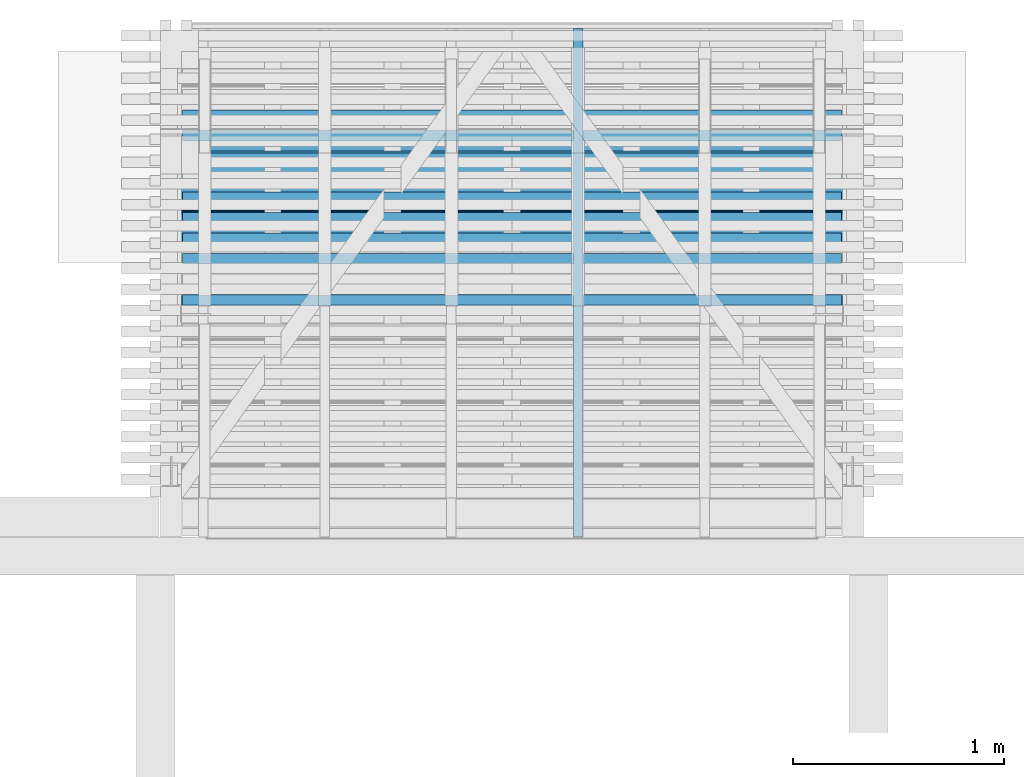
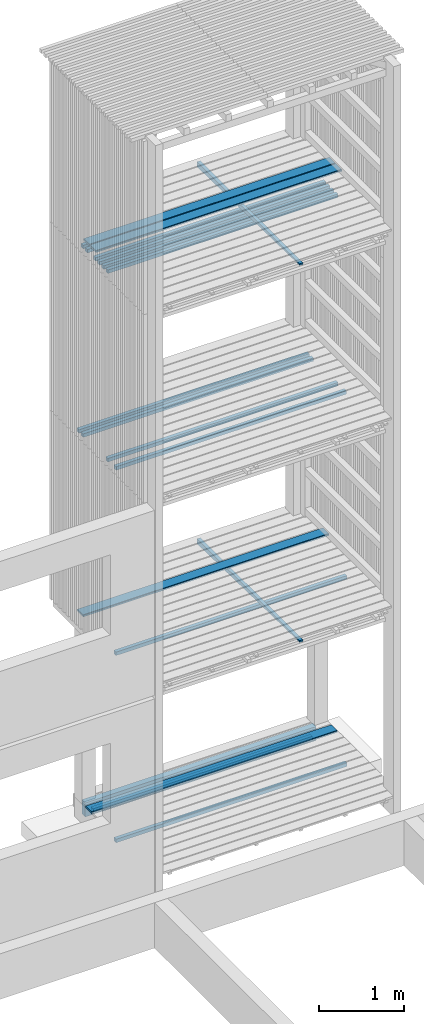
# One storey, part 73 of 182: 20 beams.
"""IFC2X3 building model written with IfcOpenShell, lengths in metres."""

from ifc_helpers import new_model, si_unit, frame, origin, place, context, project, spatial, faceted_brep, element, save


model = new_model("IFC2X3")

# Units and contexts
model_context = context("Model", 3, precision=1e-06, world=origin())
ifc_project = project(units=[si_unit("LENGTHUNIT", "METRE"), si_unit("PLANEANGLEUNIT", "RADIAN")], contexts=[model_context])

# Site, building, storey
site = spatial("IfcSite", under=ifc_project, CompositionType="ELEMENT")
building = spatial("IfcBuilding", under=site, CompositionType="ELEMENT")
storey = spatial("IfcBuildingStorey", under=building, Name="vs", CompositionType="ELEMENT", Elevation=-0.85)

# Beams
placement = place(None, origin())
beam_1_placement = place(placement, frame((26.269999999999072, 11.983411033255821, 7.86739999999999), z_axis=(0.0, 0.0, 1.0), x_axis=(-1.0, 0.0, 0.0)))
element("IfcBeam", 1, at=beam_1_placement, inside=storey, Name="Bardage", context=model_context, shape_type="Brep", body=[
    faceted_brep([(3.120000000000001, 0.025000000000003, -0.024999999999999), (3.120000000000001, 0.025000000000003, 0.025000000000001), (3.120000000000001, -0.025000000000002, 0.025000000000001), (3.120000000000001, -0.025000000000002, -0.024999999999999), (-3e-15, -0.025000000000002, -0.024999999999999), (-3e-15, -0.025000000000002, 0.025000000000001), (-3e-15, 0.024999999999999, 0.025000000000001), (-3e-15, 0.024999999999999, -0.024999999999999), (-3e-15, 0.024999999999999, -0.024999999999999), (-3e-15, 0.024999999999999, 0.025000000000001), (3.120000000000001, 0.025000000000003, 0.025000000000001), (3.120000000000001, 0.025000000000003, -0.024999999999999), (-3e-15, 0.024999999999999, 0.025000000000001), (-3e-15, -0.025000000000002, 0.025000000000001), (3.120000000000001, -0.025000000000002, 0.025000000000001), (3.120000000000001, 0.025000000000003, 0.025000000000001), (-3e-15, -0.025000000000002, 0.025000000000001), (-3e-15, -0.025000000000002, -0.024999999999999), (3.120000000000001, -0.025000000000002, -0.024999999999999), (3.120000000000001, -0.025000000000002, 0.025000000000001), (-3e-15, -0.025000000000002, -0.024999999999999), (-3e-15, 0.024999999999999, -0.024999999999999), (3.120000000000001, 0.025000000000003, -0.024999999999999), (3.120000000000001, -0.025000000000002, -0.024999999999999)], [[[0, 1, 2, 3]], [[4, 5, 6, 7]], [[8, 9, 10, 11]], [[12, 13, 14, 15]], [[16, 17, 18, 19]], [[20, 21, 22, 23]]]),
])
beam_2_placement = place(placement, frame((26.269999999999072, 12.274661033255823, 7.86739999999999), z_axis=(0.0, 0.0, 1.0), x_axis=(-1.0, 0.0, 0.0)))
element("IfcBeam", 2, at=beam_2_placement, inside=storey, Name="Bardage", context=model_context, shape_type="Brep", body=[
    faceted_brep([(3.119999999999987, 0.024999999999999, 0.025000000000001), (3.119999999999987, -0.024999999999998, 0.025000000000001), (3.119999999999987, -0.024999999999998, -0.024999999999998), (3.119999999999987, 0.024999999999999, -0.024999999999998), (-3e-15, -0.025000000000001, 0.025000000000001), (-3e-15, 0.024999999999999, 0.025000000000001), (-3e-15, 0.024999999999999, -0.024999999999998), (-3e-15, -0.025000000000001, -0.024999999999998), (3.119999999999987, 0.024999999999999, -0.024999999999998), (3.119999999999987, -0.024999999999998, -0.024999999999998), (-3e-15, -0.025000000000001, -0.024999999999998), (-3e-15, 0.024999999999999, -0.024999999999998), (-3e-15, -0.025000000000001, -0.024999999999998), (3.119999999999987, -0.024999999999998, -0.024999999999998), (3.119999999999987, -0.024999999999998, 0.025000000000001), (-3e-15, -0.025000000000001, 0.025000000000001), (-3e-15, -0.025000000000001, 0.025000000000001), (3.119999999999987, -0.024999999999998, 0.025000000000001), (3.119999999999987, 0.024999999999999, 0.025000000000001), (-3e-15, 0.024999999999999, 0.025000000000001), (-3e-15, 0.024999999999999, 0.025000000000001), (3.119999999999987, 0.024999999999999, 0.025000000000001), (3.119999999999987, 0.024999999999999, -0.024999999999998), (-3e-15, 0.024999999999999, -0.024999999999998)], [[[0, 1, 2, 3]], [[4, 5, 6, 7]], [[8, 9, 10, 11]], [[12, 13, 14, 15]], [[16, 17, 18, 19]], [[20, 21, 22, 23]]]),
])
beam_3_placement = place(placement, frame((26.374999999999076, 12.234577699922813, 2.733499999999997), z_axis=(0.0, 0.0, 1.0), x_axis=(-1.0, 0.0, 0.0)))
element("IfcBeam", 3, at=beam_3_placement, inside=storey, Name="Caillebotis", context=model_context, shape_type="Brep", body=[
    faceted_brep([(3.329999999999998, -0.072499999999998, -0.0135), (3.329999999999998, 0.072499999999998, -0.0135), (3.329999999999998, 0.072499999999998, 0.0085), (3.329999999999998, 0.067500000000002, 0.0135), (3.329999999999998, -0.067500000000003, 0.0135), (3.329999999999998, -0.072499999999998, 0.008500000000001), (0.0, -0.072500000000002, 0.008500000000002), (0.0, -0.067500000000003, 0.0135), (0.0, 0.067499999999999, 0.0135), (0.0, 0.072499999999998, 0.0085), (0.0, 0.072499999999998, -0.0135), (0.0, -0.072500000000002, -0.0135), (3.329999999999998, 0.072499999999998, 0.0085), (3.329999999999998, 0.072499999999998, -0.0135), (0.0, 0.072499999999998, -0.0135), (0.0, 0.072499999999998, 0.0085), (3.329999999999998, 0.067500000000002, 0.0135), (3.329999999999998, 0.072499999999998, 0.0085), (0.0, 0.072499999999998, 0.0085), (0.0, 0.067499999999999, 0.0135), (3.329999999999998, -0.067500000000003, 0.0135), (3.329999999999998, 0.067500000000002, 0.0135), (0.0, 0.067499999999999, 0.0135), (0.0, -0.067500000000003, 0.0135), (3.329999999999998, -0.072499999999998, 0.008500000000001), (3.329999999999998, -0.067500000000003, 0.0135), (0.0, -0.067500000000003, 0.0135), (0.0, -0.072500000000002, 0.008500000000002), (3.329999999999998, -0.072499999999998, -0.0135), (3.329999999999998, -0.072499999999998, 0.008500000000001), (0.0, -0.072500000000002, 0.008500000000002), (0.0, -0.072500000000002, -0.0135), (0.0, 0.072499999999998, -0.0135), (3.329999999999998, 0.072499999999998, -0.0135), (3.329999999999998, -0.072499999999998, -0.0135), (0.0, -0.072500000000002, -0.0135)], [[[0, 1, 2, 3, 4, 5]], [[6, 7, 8, 9, 10, 11]], [[12, 13, 14, 15]], [[16, 17, 18, 19]], [[20, 21, 22, 23]], [[24, 25, 26, 27]], [[28, 29, 30, 31]], [[32, 33, 34, 35]]]),
])
beam_4_placement = place(placement, frame((25.022999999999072, 10.470077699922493, 2.684400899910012), z_axis=(0.0, 0.0, 1.0), x_axis=(0.0, 1.0, 0.0)))
element("IfcBeam", 4, at=beam_4_placement, inside=storey, Name="Calage", context=model_context, shape_type="Brep", body=[
    faceted_brep([(2.410000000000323, -0.022499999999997, -0.035599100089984), (0.0, -0.022499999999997, 0.012600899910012), (0.0, 0.022500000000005, 0.012600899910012), (2.410000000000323, 0.02249999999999, -0.035599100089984), (0.0, 0.022500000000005, 0.035599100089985), (0.0, 0.022500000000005, 0.012600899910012), (0.0, -0.022499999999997, 0.012600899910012), (0.0, -0.022499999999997, 0.035599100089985), (2.410000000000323, 0.02249999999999, -0.035599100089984), (0.0, 0.022500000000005, 0.012600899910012), (0.0, 0.022500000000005, 0.035599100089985), (2.410000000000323, 0.022500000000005, 0.035599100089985), (2.410000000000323, -0.022499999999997, 0.035599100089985), (0.0, -0.022499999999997, 0.035599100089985), (0.0, -0.022499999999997, 0.012600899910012), (2.410000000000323, -0.022499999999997, -0.035599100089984), (2.410000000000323, 0.022500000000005, 0.035599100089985), (0.0, 0.022500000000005, 0.035599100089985), (0.0, -0.022499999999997, 0.035599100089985), (2.410000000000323, -0.022499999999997, 0.035599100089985), (2.410000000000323, 0.02249999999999, -0.035599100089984), (2.410000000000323, 0.022500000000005, 0.035599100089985), (2.410000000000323, -0.022499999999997, 0.035599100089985), (2.410000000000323, -0.022499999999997, -0.035599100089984)], [[[0, 1, 2, 3]], [[4, 5, 6, 7]], [[8, 9, 10, 11]], [[12, 13, 14, 15]], [[16, 17, 18, 19]], [[20, 21, 22, 23]]]),
])
beam_5_placement = place(placement, frame((26.269999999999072, 12.468827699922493, 5.167399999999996), z_axis=(0.0, 0.0, 1.0), x_axis=(-1.0, 0.0, 0.0)))
element("IfcBeam", 5, at=beam_5_placement, inside=storey, Name="Bardage", context=model_context, shape_type="Brep", body=[
    faceted_brep([(3.120000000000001, 0.025000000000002, -0.025), (3.120000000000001, 0.025000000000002, 0.024999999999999), (3.120000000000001, -0.024999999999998, 0.024999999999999), (3.120000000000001, -0.024999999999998, -0.025), (-3e-15, -0.024999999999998, -0.025), (-3e-15, -0.024999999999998, 0.024999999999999), (-3e-15, 0.025000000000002, 0.024999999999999), (-3e-15, 0.025000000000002, -0.025), (-3e-15, 0.025000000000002, -0.025), (-3e-15, 0.025000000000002, 0.024999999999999), (3.120000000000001, 0.025000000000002, 0.024999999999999), (3.120000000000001, 0.025000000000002, -0.025), (-3e-15, 0.025000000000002, 0.024999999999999), (-3e-15, -0.024999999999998, 0.024999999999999), (3.120000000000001, -0.024999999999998, 0.024999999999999), (3.120000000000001, 0.025000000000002, 0.024999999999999), (-3e-15, -0.024999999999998, 0.024999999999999), (-3e-15, -0.024999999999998, -0.025), (3.120000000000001, -0.024999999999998, -0.025), (3.120000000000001, -0.024999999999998, 0.024999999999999), (-3e-15, -0.024999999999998, -0.025), (-3e-15, 0.025000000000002, -0.025), (3.120000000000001, 0.025000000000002, -0.025), (3.120000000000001, -0.024999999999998, -0.025)], [[[0, 1, 2, 3]], [[4, 5, 6, 7]], [[8, 9, 10, 11]], [[12, 13, 14, 15]], [[16, 17, 18, 19]], [[20, 21, 22, 23]]]),
])
beam_6_placement = place(placement, frame((26.269999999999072, 11.886327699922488, 7.86739999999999), z_axis=(0.0, 0.0, 1.0), x_axis=(-1.0, 0.0, 0.0)))
element("IfcBeam", 6, at=beam_6_placement, inside=storey, Name="Bardage", context=model_context, shape_type="Brep", body=[
    faceted_brep([(3.120000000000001, 0.024999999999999, -0.024999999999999), (3.120000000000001, 0.024999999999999, 0.025000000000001), (3.120000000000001, -0.024999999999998, 0.025000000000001), (3.120000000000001, -0.024999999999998, -0.024999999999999), (-3e-15, -0.025000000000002, -0.024999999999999), (-3e-15, -0.025000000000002, 0.025000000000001), (-3e-15, 0.024999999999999, 0.025000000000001), (-3e-15, 0.024999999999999, -0.024999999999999), (-3e-15, 0.024999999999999, -0.024999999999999), (-3e-15, 0.024999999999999, 0.025000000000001), (3.120000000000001, 0.024999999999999, 0.025000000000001), (3.120000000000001, 0.024999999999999, -0.024999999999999), (-3e-15, 0.024999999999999, 0.025000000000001), (-3e-15, -0.025000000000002, 0.025000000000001), (3.120000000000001, -0.024999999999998, 0.025000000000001), (3.120000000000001, 0.024999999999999, 0.025000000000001), (-3e-15, -0.025000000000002, 0.025000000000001), (-3e-15, -0.025000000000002, -0.024999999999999), (3.120000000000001, -0.024999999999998, -0.024999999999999), (3.120000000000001, -0.024999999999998, 0.025000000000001), (-3e-15, -0.025000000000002, -0.024999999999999), (-3e-15, 0.024999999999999, -0.024999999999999), (3.120000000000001, 0.024999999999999, -0.024999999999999), (3.120000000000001, -0.024999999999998, -0.024999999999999)], [[[0, 1, 2, 3]], [[4, 5, 6, 7]], [[8, 9, 10, 11]], [[12, 13, 14, 15]], [[16, 17, 18, 19]], [[20, 21, 22, 23]]]),
])
beam_7_placement = place(placement, frame((23.144999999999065, 11.590077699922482, -0.164999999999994), z_axis=(0.0, 0.0, 1.0), x_axis=(1.0, 0.0, 0.0)))
element("IfcBeam", 7, at=beam_7_placement, inside=storey, Name="Ligneul", context=model_context, shape_type="Brep", body=[
    faceted_brep([(4e-15, -0.024999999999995, 0.025), (4e-15, -0.024999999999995, -0.025), (3.129999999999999, -0.024999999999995, -0.025), (3.129999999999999, -0.024999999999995, 0.025), (4e-15, 0.025000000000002, 0.025), (4e-15, -0.024999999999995, 0.025), (3.129999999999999, -0.024999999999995, 0.025), (3.129999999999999, 0.025000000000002, 0.025), (4e-15, -0.024999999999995, 0.025), (4e-15, 0.025000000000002, 0.025), (4e-15, 0.025000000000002, -0.025), (4e-15, -0.024999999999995, -0.025), (4e-15, 0.025000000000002, -0.025), (4e-15, 0.025000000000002, 0.025), (3.129999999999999, 0.025000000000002, 0.025), (3.129999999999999, 0.025000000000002, -0.025), (3.129999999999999, -0.024999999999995, -0.025), (4e-15, -0.024999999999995, -0.025), (4e-15, 0.025000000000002, -0.025), (3.129999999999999, 0.025000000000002, -0.025), (3.129999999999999, -0.024999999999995, 0.025), (3.129999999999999, -0.024999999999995, -0.025), (3.129999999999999, 0.025000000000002, -0.025), (3.129999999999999, 0.025000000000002, 0.025)], [[[0, 1, 2, 3]], [[4, 5, 6, 7]], [[8, 9, 10, 11]], [[12, 13, 14, 15]], [[16, 17, 18, 19]], [[20, 21, 22, 23]]]),
])
beam_8_placement = place(placement, frame((26.269999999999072, 11.789244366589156, 7.86739999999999), z_axis=(0.0, 0.0, 1.0), x_axis=(-1.0, 0.0, 0.0)))
element("IfcBeam", 8, at=beam_8_placement, inside=storey, Name="Bardage", context=model_context, shape_type="Brep", body=[
    faceted_brep([(3.120000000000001, 0.025000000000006, -0.024999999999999), (3.120000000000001, 0.025000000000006, 0.025000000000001), (3.120000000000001, -0.024999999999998, 0.025000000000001), (3.120000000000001, -0.024999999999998, -0.024999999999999), (-3e-15, -0.024999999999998, -0.024999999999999), (-3e-15, -0.024999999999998, 0.025000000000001), (-3e-15, 0.025000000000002, 0.025000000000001), (-3e-15, 0.025000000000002, -0.024999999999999), (-3e-15, 0.025000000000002, -0.024999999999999), (-3e-15, 0.025000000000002, 0.025000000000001), (3.120000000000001, 0.025000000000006, 0.025000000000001), (3.120000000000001, 0.025000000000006, -0.024999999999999), (-3e-15, 0.025000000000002, 0.025000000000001), (-3e-15, -0.024999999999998, 0.025000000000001), (3.120000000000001, -0.024999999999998, 0.025000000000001), (3.120000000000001, 0.025000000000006, 0.025000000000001), (-3e-15, -0.024999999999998, 0.025000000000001), (-3e-15, -0.024999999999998, -0.024999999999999), (3.120000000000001, -0.024999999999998, -0.024999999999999), (3.120000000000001, -0.024999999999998, 0.025000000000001), (-3e-15, -0.024999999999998, -0.024999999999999), (-3e-15, 0.025000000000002, -0.024999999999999), (3.120000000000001, 0.025000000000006, -0.024999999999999), (3.120000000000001, -0.024999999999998, -0.024999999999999)], [[[0, 1, 2, 3]], [[4, 5, 6, 7]], [[8, 9, 10, 11]], [[12, 13, 14, 15]], [[16, 17, 18, 19]], [[20, 21, 22, 23]]]),
])
beam_9_placement = place(placement, frame((26.269999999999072, 11.789244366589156, 5.167399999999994), z_axis=(0.0, 0.0, 1.0), x_axis=(-1.0, 0.0, 0.0)))
element("IfcBeam", 9, at=beam_9_placement, inside=storey, Name="Bardage", context=model_context, shape_type="Brep", body=[
    faceted_brep([(3.120000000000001, 0.025000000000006, -0.024999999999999), (3.120000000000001, 0.025000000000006, 0.025), (3.120000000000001, -0.024999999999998, 0.025), (3.120000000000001, -0.024999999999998, -0.024999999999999), (-3e-15, -0.024999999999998, -0.024999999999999), (-3e-15, -0.024999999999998, 0.025), (-3e-15, 0.025000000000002, 0.025), (-3e-15, 0.025000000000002, -0.024999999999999), (-3e-15, 0.025000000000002, -0.024999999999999), (-3e-15, 0.025000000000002, 0.025), (3.120000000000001, 0.025000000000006, 0.025), (3.120000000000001, 0.025000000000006, -0.024999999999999), (-3e-15, 0.025000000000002, 0.025), (-3e-15, -0.024999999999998, 0.025), (3.120000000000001, -0.024999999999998, 0.025), (3.120000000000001, 0.025000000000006, 0.025), (-3e-15, -0.024999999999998, 0.025), (-3e-15, -0.024999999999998, -0.024999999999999), (3.120000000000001, -0.024999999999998, -0.024999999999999), (3.120000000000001, -0.024999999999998, 0.025), (-3e-15, -0.024999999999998, -0.024999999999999), (-3e-15, 0.025000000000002, -0.024999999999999), (3.120000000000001, 0.025000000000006, -0.024999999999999), (3.120000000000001, -0.024999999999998, -0.024999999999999)], [[[0, 1, 2, 3]], [[4, 5, 6, 7]], [[8, 9, 10, 11]], [[12, 13, 14, 15]], [[16, 17, 18, 19]], [[20, 21, 22, 23]]]),
])
beam_10_placement = place(placement, frame((26.269999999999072, 12.080494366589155, 7.86739999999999), z_axis=(0.0, 0.0, 1.0), x_axis=(-1.0, 0.0, 0.0)))
element("IfcBeam", 10, at=beam_10_placement, inside=storey, Name="Bardage", context=model_context, shape_type="Brep", body=[
    faceted_brep([(3.120000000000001, 0.024999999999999, -0.024999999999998), (3.120000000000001, 0.024999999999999, 0.025000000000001), (3.120000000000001, -0.024999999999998, 0.025000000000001), (3.120000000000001, -0.024999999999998, -0.024999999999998), (-3e-15, -0.025000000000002, -0.024999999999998), (-3e-15, -0.025000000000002, 0.025000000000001), (-3e-15, 0.024999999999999, 0.025000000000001), (-3e-15, 0.024999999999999, -0.024999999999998), (-3e-15, 0.024999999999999, -0.024999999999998), (-3e-15, 0.024999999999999, 0.025000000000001), (3.120000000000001, 0.024999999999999, 0.025000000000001), (3.120000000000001, 0.024999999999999, -0.024999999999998), (-3e-15, 0.024999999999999, 0.025000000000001), (-3e-15, -0.025000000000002, 0.025000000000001), (3.120000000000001, -0.024999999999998, 0.025000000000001), (3.120000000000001, 0.024999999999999, 0.025000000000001), (-3e-15, -0.025000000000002, 0.025000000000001), (-3e-15, -0.025000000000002, -0.024999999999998), (3.120000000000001, -0.024999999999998, -0.024999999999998), (3.120000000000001, -0.024999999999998, 0.025000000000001), (-3e-15, -0.025000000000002, -0.024999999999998), (-3e-15, 0.024999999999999, -0.024999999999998), (3.120000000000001, 0.024999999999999, -0.024999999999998), (3.120000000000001, -0.024999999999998, -0.024999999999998)], [[[0, 1, 2, 3]], [[4, 5, 6, 7]], [[8, 9, 10, 11]], [[12, 13, 14, 15]], [[16, 17, 18, 19]], [[20, 21, 22, 23]]]),
])
beam_11_placement = place(placement, frame((26.374999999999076, 12.084577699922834, 8.133499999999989), z_axis=(0.0, 0.0, 1.0), x_axis=(-1.0, -1e-14, 0.0)))
element("IfcBeam", 11, at=beam_11_placement, inside=storey, Name="Caillebotis", context=model_context, shape_type="Brep", body=[
    faceted_brep([(3.329999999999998, -0.072500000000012, -0.013499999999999), (3.329999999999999, 0.072499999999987, -0.013499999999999), (3.329999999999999, 0.072499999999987, 0.0085), (3.329999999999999, 0.067499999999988, 0.013500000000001), (3.329999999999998, -0.067500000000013, 0.013500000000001), (3.329999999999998, -0.072500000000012, 0.008500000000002), (-1e-15, -0.07249999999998, 0.008500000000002), (-1e-15, -0.067499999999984, 0.013500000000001), (1e-15, 0.067500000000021, 0.013500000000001), (1e-15, 0.072500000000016, 0.0085), (1e-15, 0.072500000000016, -0.013499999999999), (-1e-15, -0.07249999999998, -0.013499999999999), (3.329999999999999, 0.072499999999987, 0.0085), (3.329999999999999, 0.072499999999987, -0.013499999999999), (1e-15, 0.072500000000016, -0.013499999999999), (1e-15, 0.072500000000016, 0.0085), (3.329999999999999, 0.067499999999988, 0.013500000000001), (3.329999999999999, 0.072499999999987, 0.0085), (1e-15, 0.072500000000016, 0.0085), (1e-15, 0.067500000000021, 0.013500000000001), (3.329999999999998, -0.067500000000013, 0.013500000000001), (3.329999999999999, 0.067499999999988, 0.013500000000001), (1e-15, 0.067500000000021, 0.013500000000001), (-1e-15, -0.067499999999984, 0.013500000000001), (3.329999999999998, -0.072500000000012, 0.008500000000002), (3.329999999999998, -0.067500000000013, 0.013500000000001), (-1e-15, -0.067499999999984, 0.013500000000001), (-1e-15, -0.07249999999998, 0.008500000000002), (3.329999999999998, -0.072500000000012, -0.013499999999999), (3.329999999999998, -0.072500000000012, 0.008500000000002), (-1e-15, -0.07249999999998, 0.008500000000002), (-1e-15, -0.07249999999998, -0.013499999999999), (1e-15, 0.072500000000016, -0.013499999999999), (3.329999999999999, 0.072499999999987, -0.013499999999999), (3.329999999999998, -0.072500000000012, -0.013499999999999), (-1e-15, -0.07249999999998, -0.013499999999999)], [[[0, 1, 2, 3, 4, 5]], [[6, 7, 8, 9, 10, 11]], [[12, 13, 14, 15]], [[16, 17, 18, 19]], [[20, 21, 22, 23]], [[24, 25, 26, 27]], [[28, 29, 30, 31]], [[32, 33, 34, 35]]]),
])
beam_12_placement = place(placement, frame((26.374999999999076, 11.934577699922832, 8.13349999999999), z_axis=(0.0, 0.0, 1.0), x_axis=(-1.0, -8e-15, 0.0)))
element("IfcBeam", 12, at=beam_12_placement, inside=storey, Name="Caillebotis", context=model_context, shape_type="Brep", body=[
    faceted_brep([(3.329999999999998, -0.072500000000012, -0.013500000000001), (3.329999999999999, 0.072499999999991, -0.013500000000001), (3.329999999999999, 0.072499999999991, 0.008499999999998), (3.329999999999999, 0.067499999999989, 0.013499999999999), (3.329999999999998, -0.067500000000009, 0.013499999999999), (3.329999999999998, -0.072500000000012, 0.0085), (-1e-15, -0.072499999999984, 0.0085), (-1e-15, -0.067499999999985, 0.013499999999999), (1e-15, 0.067500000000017, 0.013499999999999), (1e-15, 0.072500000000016, 0.008499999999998), (1e-15, 0.072500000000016, -0.013500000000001), (-1e-15, -0.072499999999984, -0.013500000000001), (3.329999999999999, 0.072499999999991, 0.008499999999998), (3.329999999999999, 0.072499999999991, -0.013500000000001), (1e-15, 0.072500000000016, -0.013500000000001), (1e-15, 0.072500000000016, 0.008499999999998), (3.329999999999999, 0.067499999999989, 0.013499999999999), (3.329999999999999, 0.072499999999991, 0.008499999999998), (1e-15, 0.072500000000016, 0.008499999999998), (1e-15, 0.067500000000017, 0.013499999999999), (3.329999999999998, -0.067500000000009, 0.013499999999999), (3.329999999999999, 0.067499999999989, 0.013499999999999), (1e-15, 0.067500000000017, 0.013499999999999), (-1e-15, -0.067499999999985, 0.013499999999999), (3.329999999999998, -0.072500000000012, 0.0085), (3.329999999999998, -0.067500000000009, 0.013499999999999), (-1e-15, -0.067499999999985, 0.013499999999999), (-1e-15, -0.072499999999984, 0.0085), (3.329999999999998, -0.072500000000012, -0.013500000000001), (3.329999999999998, -0.072500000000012, 0.0085), (-1e-15, -0.072499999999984, 0.0085), (-1e-15, -0.072499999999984, -0.013500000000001), (1e-15, 0.072500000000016, -0.013500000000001), (3.329999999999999, 0.072499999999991, -0.013500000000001), (3.329999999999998, -0.072500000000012, -0.013500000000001), (-1e-15, -0.072499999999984, -0.013500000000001)], [[[0, 1, 2, 3, 4, 5]], [[6, 7, 8, 9, 10, 11]], [[12, 13, 14, 15]], [[16, 17, 18, 19]], [[20, 21, 22, 23]], [[24, 25, 26, 27]], [[28, 29, 30, 31]], [[32, 33, 34, 35]]]),
])
beam_13_placement = place(placement, frame((26.269999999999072, 12.371744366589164, 5.167399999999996), z_axis=(0.0, 0.0, 1.0), x_axis=(-1.0, 0.0, 0.0)))
element("IfcBeam", 13, at=beam_13_placement, inside=storey, Name="Bardage", context=model_context, shape_type="Brep", body=[
    faceted_brep([(3.120000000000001, 0.025000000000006, 0.024999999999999), (3.120000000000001, -0.024999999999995, 0.024999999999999), (3.120000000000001, -0.024999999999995, -0.025), (3.120000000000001, 0.025000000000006, -0.025), (-3e-15, -0.024999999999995, 0.024999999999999), (-3e-15, 0.025000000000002, 0.024999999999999), (-3e-15, 0.025000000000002, -0.025), (-3e-15, -0.024999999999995, -0.025), (-3e-15, -0.024999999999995, -0.025), (-3e-15, 0.025000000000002, -0.025), (3.120000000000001, 0.025000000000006, -0.025), (3.120000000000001, -0.024999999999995, -0.025), (3.120000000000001, -0.024999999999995, -0.025), (3.120000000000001, -0.024999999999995, 0.024999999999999), (-3e-15, -0.024999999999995, 0.024999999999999), (-3e-15, -0.024999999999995, -0.025), (3.120000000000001, 0.025000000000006, 0.024999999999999), (3.120000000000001, 0.025000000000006, -0.025), (-3e-15, 0.025000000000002, -0.025), (-3e-15, 0.025000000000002, 0.024999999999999), (3.120000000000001, -0.024999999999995, 0.024999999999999), (3.120000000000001, 0.025000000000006, 0.024999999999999), (-3e-15, 0.025000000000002, 0.024999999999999), (-3e-15, -0.024999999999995, 0.024999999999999)], [[[0, 1, 2, 3]], [[4, 5, 6, 7]], [[8, 9, 10, 11]], [[12, 13, 14, 15]], [[16, 17, 18, 19]], [[20, 21, 22, 23]]]),
])
beam_14_placement = place(placement, frame((23.144999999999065, 11.590077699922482, 2.517399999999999), z_axis=(0.0, 0.0, 1.0), x_axis=(1.0, 0.0, 0.0)))
element("IfcBeam", 14, at=beam_14_placement, inside=storey, Name="Ligneul", context=model_context, shape_type="Brep", body=[
    faceted_brep([(4e-15, -0.024999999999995, 0.025), (4e-15, -0.024999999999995, -0.025), (3.129999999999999, -0.024999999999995, -0.025), (3.129999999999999, -0.024999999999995, 0.025), (4e-15, 0.025000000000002, 0.025), (4e-15, -0.024999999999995, 0.025), (3.129999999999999, -0.024999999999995, 0.025), (3.129999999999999, 0.025000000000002, 0.025), (4e-15, -0.024999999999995, 0.025), (4e-15, 0.025000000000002, 0.025), (4e-15, 0.025000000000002, -0.025), (4e-15, -0.024999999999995, -0.025), (4e-15, 0.025000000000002, -0.025), (4e-15, 0.025000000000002, 0.025), (3.129999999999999, 0.025000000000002, 0.025), (3.129999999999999, 0.025000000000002, -0.025), (3.129999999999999, -0.024999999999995, -0.025), (4e-15, -0.024999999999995, -0.025), (4e-15, 0.025000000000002, -0.025), (3.129999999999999, 0.025000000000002, -0.025), (3.129999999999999, -0.024999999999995, 0.025), (3.129999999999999, -0.024999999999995, -0.025), (3.129999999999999, 0.025000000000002, -0.025), (3.129999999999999, 0.025000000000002, 0.025)], [[[0, 1, 2, 3]], [[4, 5, 6, 7]], [[8, 9, 10, 11]], [[12, 13, 14, 15]], [[16, 17, 18, 19]], [[20, 21, 22, 23]]]),
])
beam_15_placement = place(placement, frame((26.269999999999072, 11.595077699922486, 5.167399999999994), z_axis=(0.0, 0.0, 1.0), x_axis=(-1.0, 0.0, 0.0)))
element("IfcBeam", 15, at=beam_15_placement, inside=storey, Name="Bardage", context=model_context, shape_type="Brep", body=[
    faceted_brep([(-3e-15, 0.024999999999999, -0.025), (-3e-15, -0.025000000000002, -0.025), (-3e-15, -0.025000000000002, 0.025), (-3e-15, 0.024999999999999, 0.025), (3.120000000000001, -0.025000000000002, 0.025), (3.120000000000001, -0.025000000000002, -0.025), (3.120000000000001, 0.025000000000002, -0.025), (3.120000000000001, 0.025000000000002, 0.025), (3.120000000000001, -0.025000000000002, -0.025), (3.120000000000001, -0.025000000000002, 0.025), (-3e-15, -0.025000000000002, 0.025), (-3e-15, -0.025000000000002, -0.025), (3.120000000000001, 0.025000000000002, -0.025), (3.120000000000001, -0.025000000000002, -0.025), (-3e-15, -0.025000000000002, -0.025), (-3e-15, 0.024999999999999, -0.025), (3.120000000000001, 0.025000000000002, 0.025), (3.120000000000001, 0.025000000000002, -0.025), (-3e-15, 0.024999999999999, -0.025), (-3e-15, 0.024999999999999, 0.025), (3.120000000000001, -0.025000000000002, 0.025), (3.120000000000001, 0.025000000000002, 0.025), (-3e-15, 0.024999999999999, 0.025), (-3e-15, -0.025000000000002, 0.025)], [[[0, 1, 2, 3]], [[4, 5, 6, 7]], [[8, 9, 10, 11]], [[12, 13, 14, 15]], [[16, 17, 18, 19]], [[20, 21, 22, 23]]]),
])
beam_16_placement = place(placement, frame((26.269999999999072, 12.371744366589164, 7.86739999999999), z_axis=(0.0, 0.0, 1.0), x_axis=(-1.0, 0.0, 0.0)))
element("IfcBeam", 16, at=beam_16_placement, inside=storey, Name="Bardage", context=model_context, shape_type="Brep", body=[
    faceted_brep([(-3e-15, -0.024999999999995, 0.025000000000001), (-3e-15, 0.025000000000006, 0.025000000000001), (-3e-15, 0.025000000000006, -0.024999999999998), (-3e-15, -0.024999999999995, -0.024999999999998), (3.119999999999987, 0.025000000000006, 0.025000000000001), (3.120000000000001, -0.024999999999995, 0.025000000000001), (3.120000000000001, -0.024999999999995, -0.024999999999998), (3.119999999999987, 0.025000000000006, -0.024999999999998), (3.120000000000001, -0.024999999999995, 0.025000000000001), (3.119999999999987, 0.025000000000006, 0.025000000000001), (-3e-15, 0.025000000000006, 0.025000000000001), (-3e-15, -0.024999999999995, 0.025000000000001), (-3e-15, 0.025000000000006, 0.025000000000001), (3.119999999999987, 0.025000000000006, 0.025000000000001), (3.119999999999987, 0.025000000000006, -0.024999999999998), (-3e-15, 0.025000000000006, -0.024999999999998), (-3e-15, -0.024999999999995, -0.024999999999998), (-3e-15, 0.025000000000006, -0.024999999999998), (3.119999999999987, 0.025000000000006, -0.024999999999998), (3.120000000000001, -0.024999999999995, -0.024999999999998), (3.120000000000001, -0.024999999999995, -0.024999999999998), (3.120000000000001, -0.024999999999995, 0.025000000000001), (-3e-15, -0.024999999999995, 0.025000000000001), (-3e-15, -0.024999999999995, -0.024999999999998)], [[[0, 1, 2, 3]], [[4, 5, 6, 7]], [[8, 9, 10, 11]], [[12, 13, 14, 15]], [[16, 17, 18, 19]], [[20, 21, 22, 23]]]),
])
beam_17_placement = place(placement, frame((26.374999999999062, 12.034577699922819, 0.033500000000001), z_axis=(0.0, 0.0, 1.0), x_axis=(-1.0, -1e-15, 0.0)))
element("IfcBeam", 17, at=beam_17_placement, inside=storey, Name="Caillebotis", context=model_context, shape_type="Brep", body=[
    faceted_brep([(3.329999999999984, -0.067499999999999, 0.0135), (3.329999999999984, -0.072500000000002, 0.008500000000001), (3.329999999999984, -0.072500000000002, -0.013500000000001), (3.329999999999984, 0.072500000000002, -0.013500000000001), (3.329999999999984, 0.072500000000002, 0.0085), (3.329999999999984, 0.067499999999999, 0.0135), (0.0, 0.067500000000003, 0.0135), (0.0, 0.072500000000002, 0.0085), (0.0, 0.072500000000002, -0.013500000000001), (0.0, -0.072499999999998, -0.013500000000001), (0.0, -0.072499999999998, 0.008500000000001), (0.0, -0.067499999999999, 0.0135), (3.329999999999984, -0.072500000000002, -0.013500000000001), (3.329999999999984, -0.072500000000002, 0.008500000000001), (0.0, -0.072499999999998, 0.008500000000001), (0.0, -0.072499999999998, -0.013500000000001), (3.329999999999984, 0.072500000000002, -0.013500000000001), (3.329999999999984, -0.072500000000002, -0.013500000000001), (0.0, -0.072499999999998, -0.013500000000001), (0.0, 0.072500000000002, -0.013500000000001), (3.329999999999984, 0.072500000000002, 0.0085), (3.329999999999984, 0.072500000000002, -0.013500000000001), (0.0, 0.072500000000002, -0.013500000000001), (0.0, 0.072500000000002, 0.0085), (3.329999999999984, 0.067499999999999, 0.0135), (3.329999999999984, 0.072500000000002, 0.0085), (0.0, 0.072500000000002, 0.0085), (0.0, 0.067500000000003, 0.0135), (3.329999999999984, -0.067499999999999, 0.0135), (3.329999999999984, 0.067499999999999, 0.0135), (0.0, 0.067500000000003, 0.0135), (0.0, -0.067499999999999, 0.0135), (0.0, -0.072499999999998, 0.008500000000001), (3.329999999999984, -0.072500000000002, 0.008500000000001), (3.329999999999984, -0.067499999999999, 0.0135), (0.0, -0.067499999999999, 0.0135)], [[[0, 1, 2, 3, 4, 5]], [[6, 7, 8, 9, 10, 11]], [[12, 13, 14, 15]], [[16, 17, 18, 19]], [[20, 21, 22, 23]], [[24, 25, 26, 27]], [[28, 29, 30, 31]], [[32, 33, 34, 35]]]),
])
beam_18_placement = place(placement, frame((26.274999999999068, 12.33007769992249, -0.159999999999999), z_axis=(0.0, 0.0, 1.0), x_axis=(-1.0, 0.0, 0.0)))
element("IfcBeam", 18, at=beam_18_placement, inside=storey, Name="Sommier", context=model_context, shape_type="Brep", body=[
    faceted_brep([(3.129999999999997, 0.040000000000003, -0.1), (3.129999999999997, -0.039999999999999, -0.1), (1e-15, -0.040000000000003, -0.1), (1e-15, 0.039999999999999, -0.1), (3.129999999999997, 0.040000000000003, 0.1), (3.129999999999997, 0.040000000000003, -0.1), (1e-15, 0.039999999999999, -0.1), (1e-15, 0.039999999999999, 0.1), (3.129999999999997, 0.040000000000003, -0.1), (3.129999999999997, 0.040000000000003, 0.1), (3.129999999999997, -0.039999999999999, 0.1), (3.129999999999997, -0.039999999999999, -0.1), (3.129999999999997, -0.039999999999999, 0.1), (3.129999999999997, 0.040000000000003, 0.1), (1e-15, 0.039999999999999, 0.1), (1e-15, -0.040000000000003, 0.1), (1e-15, -0.040000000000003, -0.1), (3.129999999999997, -0.039999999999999, -0.1), (3.129999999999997, -0.039999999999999, 0.1), (1e-15, -0.040000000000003, 0.1), (1e-15, 0.039999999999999, -0.1), (1e-15, -0.040000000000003, -0.1), (1e-15, -0.040000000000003, 0.1), (1e-15, 0.039999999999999, 0.1)], [[[0, 1, 2, 3]], [[4, 5, 6, 7]], [[8, 9, 10, 11]], [[12, 13, 14, 15]], [[16, 17, 18, 19]], [[20, 21, 22, 23]]]),
])
beam_19_placement = place(placement, frame((25.022999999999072, 10.470077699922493, 8.084400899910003), z_axis=(0.0, 0.0, 1.0), x_axis=(0.0, 1.0, 0.0)))
element("IfcBeam", 19, at=beam_19_placement, inside=storey, Name="Calage", context=model_context, shape_type="Brep", body=[
    faceted_brep([(2.410000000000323, -0.022499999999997, -0.035599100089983), (0.0, -0.022499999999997, 0.012600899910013), (0.0, 0.02249999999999, 0.012600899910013), (2.410000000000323, 0.02249999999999, -0.035599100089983), (0.0, 0.02249999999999, 0.035599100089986), (0.0, 0.02249999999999, 0.012600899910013), (0.0, -0.022499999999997, 0.012600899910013), (0.0, -0.022499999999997, 0.035599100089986), (2.410000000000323, 0.02249999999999, -0.035599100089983), (0.0, 0.02249999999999, 0.012600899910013), (0.0, 0.02249999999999, 0.035599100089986), (2.410000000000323, 0.02249999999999, 0.035599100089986), (2.410000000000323, -0.022499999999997, 0.035599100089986), (0.0, -0.022499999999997, 0.035599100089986), (0.0, -0.022499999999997, 0.012600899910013), (2.410000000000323, -0.022499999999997, -0.035599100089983), (2.410000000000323, 0.02249999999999, 0.035599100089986), (0.0, 0.02249999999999, 0.035599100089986), (0.0, -0.022499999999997, 0.035599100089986), (2.410000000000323, -0.022499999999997, 0.035599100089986), (2.410000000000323, 0.02249999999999, -0.035599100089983), (2.410000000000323, 0.02249999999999, 0.035599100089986), (2.410000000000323, -0.022499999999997, 0.035599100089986), (2.410000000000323, -0.022499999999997, -0.035599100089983)], [[[0, 1, 2, 3]], [[4, 5, 6, 7]], [[8, 9, 10, 11]], [[12, 13, 14, 15]], [[16, 17, 18, 19]], [[20, 21, 22, 23]]]),
])
beam_20_placement = place(placement, frame((23.22499999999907, 12.26507769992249, -0.164999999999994), z_axis=(0.0, 0.0, 1.0), x_axis=(1.0, 0.0, 0.0)))
element("IfcBeam", 20, at=beam_20_placement, inside=storey, Name="Ligneul", context=model_context, shape_type="Brep", body=[
    faceted_brep([(2e-15, -0.024999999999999, 0.025), (2e-15, -0.024999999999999, -0.025), (2.970000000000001, -0.024999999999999, -0.025), (2.970000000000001, -0.024999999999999, 0.025), (2e-15, 0.024999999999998, 0.025), (2e-15, -0.024999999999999, 0.025), (2.970000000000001, -0.024999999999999, 0.025), (2.970000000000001, 0.025000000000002, 0.025), (2e-15, -0.024999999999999, 0.025), (2e-15, 0.024999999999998, 0.025), (2e-15, 0.024999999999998, -0.025), (2e-15, -0.024999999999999, -0.025), (2e-15, 0.024999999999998, -0.025), (2e-15, 0.024999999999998, 0.025), (2.970000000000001, 0.025000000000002, 0.025), (2.970000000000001, 0.025000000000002, -0.025), (2.970000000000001, -0.024999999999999, -0.025), (2e-15, -0.024999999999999, -0.025), (2e-15, 0.024999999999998, -0.025), (2.970000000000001, 0.025000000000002, -0.025), (2.970000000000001, -0.024999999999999, 0.025), (2.970000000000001, -0.024999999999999, -0.025), (2.970000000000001, 0.025000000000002, -0.025), (2.970000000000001, 0.025000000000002, 0.025)], [[[0, 1, 2, 3]], [[4, 5, 6, 7]], [[8, 9, 10, 11]], [[12, 13, 14, 15]], [[16, 17, 18, 19]], [[20, 21, 22, 23]]]),
])

save(model, "model.ifc")
